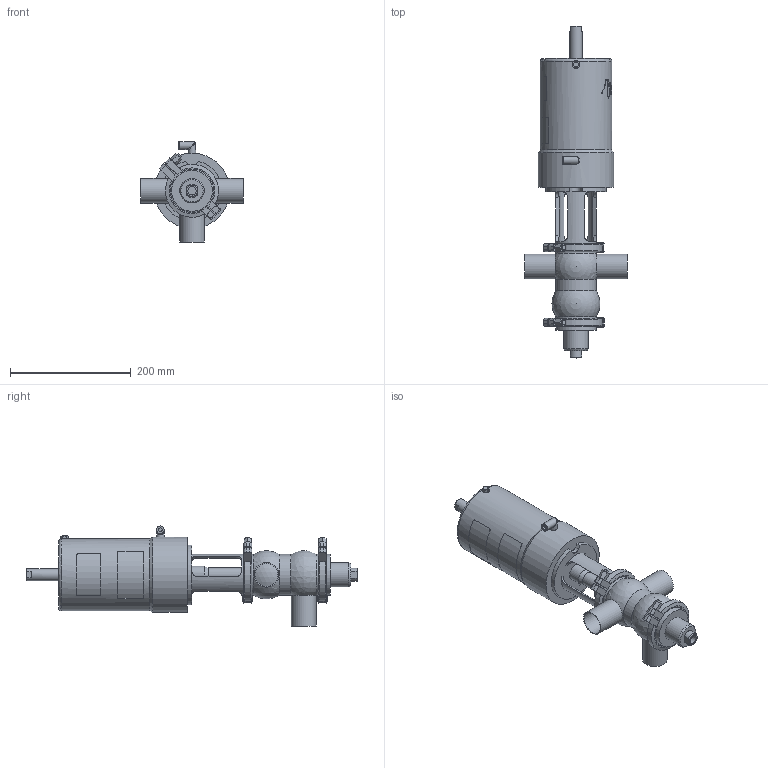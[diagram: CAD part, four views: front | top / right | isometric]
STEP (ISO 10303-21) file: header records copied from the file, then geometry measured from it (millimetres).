
FILE_DESCRIPTION (( 'STEP AP214' ), '1' );
FILE_NAME ('INNOVA S AB-90 W DIN 040_10.251.16.0001.STEP', '2024-08-20T12:09:13', ( '' ), ( '' ), 'SwSTEP 2.0', 'SolidWorks 2023', '' );
FILE_SCHEMA (( 'AUTOMOTIVE_DESIGN' ));
Length unit declared in the file: millimetre
Products named in the file (6): 10.251.15.0003_DIN 040; 10.251.15.0001_DN 040; 10.250.15.0002_Type S T1; INNOVA S AB-90 W DIN 040_10.251.16.0001; 10.251.15.0002_DN 040; 10.240.15.0001_DN 040
Assembly tree (6 placements, depth 2):
  INNOVA S AB-90 W DIN 040_10.251.16.0001
    10.251.15.0001_DN 040
    10.250.15.0002_Type S T1
    10.251.15.0003_DIN 040
    10.240.15.0001_DN 040  x2
    10.251.15.0002_DN 040
Bounding box: 170 x 551 x 166 mm (x, y, z)
Volume: 3364975.3 mm3; surface area: 288986.4 mm2
Topology: 6 solids, 6 shells, 425 faces, 1102 edges, 717 vertices
Faces by surface type: plane 202, cylinder 110, bspline 80, cone 27, sphere 5, torus 1
Full cylindrical faces by diameter (mm): 4.2 x2, 5 x1, 6 x1, 6.15 x1, 8 x4, 8.5 x1, 10.5 x2, 12.5 x6, 14 x1, 20 x1, 23 x1, 28 x1, 38 x3, 40.5 x1, 41 x3, 67.5 x3, 68 x2, 79.5 x4, 119.5 x1, 125 x1
Entity records: 21177 total; most frequent: CARTESIAN_POINT 11025, ORIENTED_EDGE 1728, DIRECTION 1355, EDGE_CURVE 864, VERTEX_POINT 592, AXIS2_PLACEMENT_3D 519, EDGE_LOOP 458, FACE_OUTER_BOUND 408
